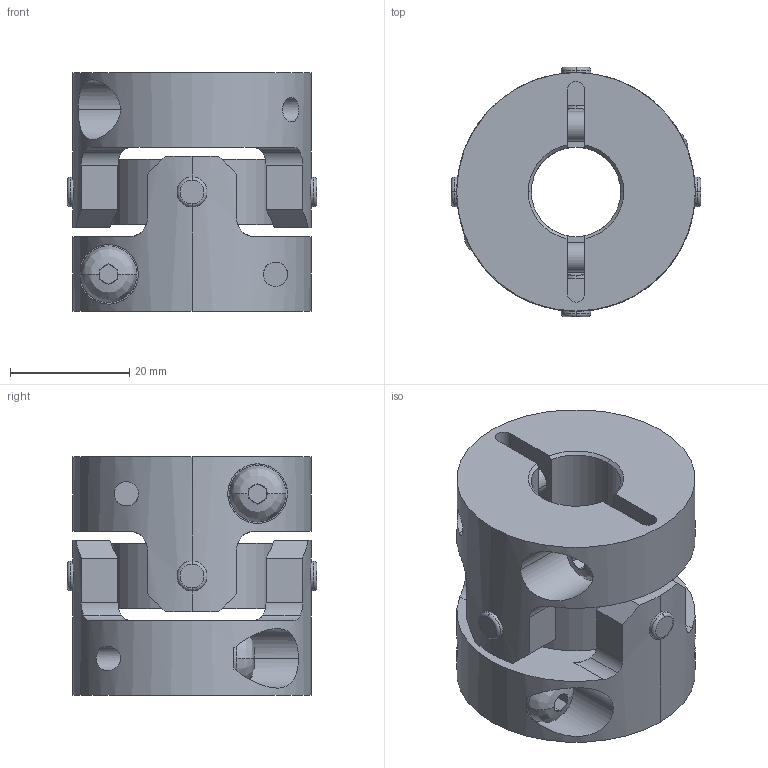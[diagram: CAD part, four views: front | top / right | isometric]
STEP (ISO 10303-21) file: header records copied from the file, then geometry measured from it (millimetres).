
FILE_DESCRIPTION((''),'2;1');
FILE_NAME('UA-40C-15×20.stp','2013-05-22T08:58:42',(''),(''),'AutoCAD STEP 2000i','AutoCAD 2000i',', , ');
FILE_SCHEMA(('CONFIG_CONTROL_DESIGN'));
Length unit declared in the file: millimetre
Products named in the file (7): UA-40C-8×18; 忣兜1; UA-4002-D18; BTN-M5; UA-4002-D08-1; UA-4002-D08; UA40-SEN
Assembly tree (8 placements, depth 3):
  UA-40C-8×18
    忣兜1
    UA-4002-D18
      BTN-M5
    UA-4002-D08-1
      BTN-M5
    UA-4002-D08
      BTN-M5
    UA40-SEN
Bounding box: 41.81 x 41.81 x 40 mm (x, y, z)
Volume: 31468 mm3; surface area: 15016.1 mm2
Topology: 1 solids, 1 shells, 252 faces, 654 edges, 412 vertices
Faces by surface type: plane 124, cylinder 96, cone 16, bspline 8, torus 8
Entity records: 9705 total; most frequent: CARTESIAN_POINT 3363, DIRECTION 1308, ORIENTED_EDGE 1308, EDGE_CURVE 654, AXIS2_PLACEMENT_3D 505, VERTEX_POINT 412, VECTOR 298, LINE 298
